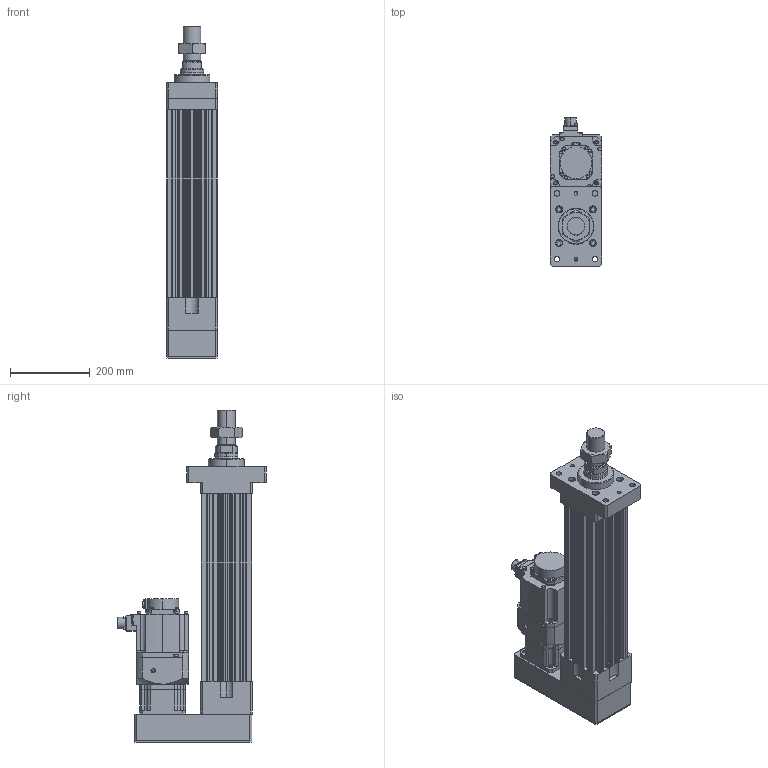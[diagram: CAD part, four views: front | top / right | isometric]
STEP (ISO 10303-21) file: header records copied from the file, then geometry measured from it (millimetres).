
FILE_DESCRIPTION (( 'STEP AP203' ), '1' );
FILE_NAME ('HES130NS(FS)(HS)-P250-W015G00-M-FMB.STEP', '2023-01-29T05:19:07', ( 'tms' ), ( '' ), 'SwSTEP 2.0', 'SolidWorks 2013', '' );
FILE_SCHEMA (( 'CONFIG_CONTROL_DESIGN' ));
Length unit declared in the file: millimetre
Products named in the file (8): P0401400706; HES130 ROD M ST250; HES130-P250-G120-FMB; HG-SR152; M45X1.5P; AB1151; HES130NS(FS)(HS)-P250-W015G00-M-FMB; AB115-003[HG-SR152]
Assembly tree (7 placements, depth 3):
  HES130NS(FS)(HS)-P250-W015G00-M-FMB
    HES130-P250-G120-FMB
    HES130 ROD M ST250
    M45X1.5P
    AB115-003[HG-SR152]
      AB1151
      P0401400706
    HG-SR152
Bounding box: 130 x 372.49 x 832 mm (x, y, z)
Volume: 10435630 mm3; surface area: 1186011 mm2
Topology: 4 solids, 11 shells, 1082 faces, 2768 edges, 1799 vertices
Faces by surface type: cylinder 513, plane 489, cone 68, bspline 8, torus 4
Entity records: 34626 total; most frequent: CARTESIAN_POINT 6632, DIRECTION 5993, ORIENTED_EDGE 5484, EDGE_CURVE 2752, AXIS2_PLACEMENT_3D 2228, VERTEX_POINT 1799, VECTOR 1537, LINE 1537
